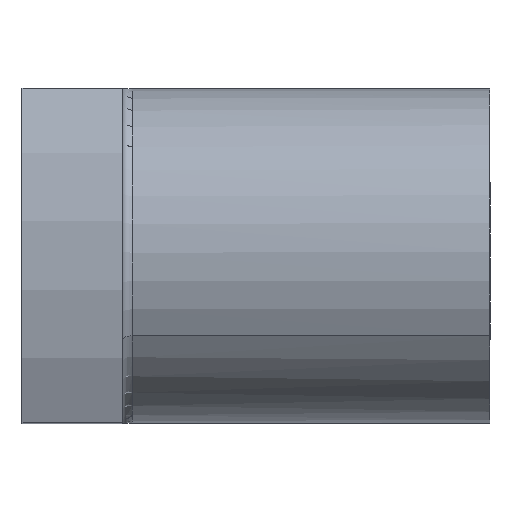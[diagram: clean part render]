
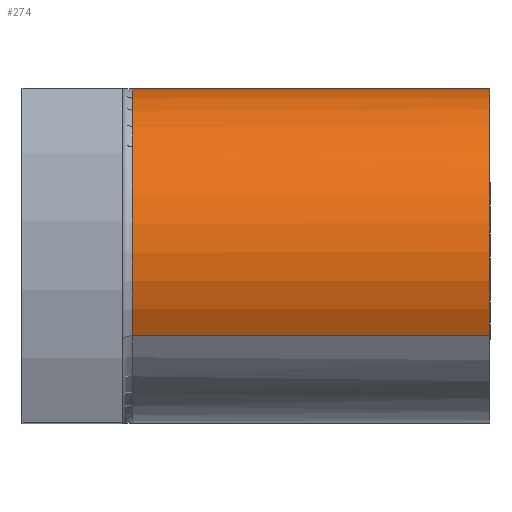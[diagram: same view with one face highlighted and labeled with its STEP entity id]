
A CAD part, top view. The second image highlights one B-rep face of the part: STEP entity #274.
In plain terms, the highlighted cylindrical face has radius 5 mm (diameter 10 mm), a partial arc.
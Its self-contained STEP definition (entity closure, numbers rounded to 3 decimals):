
#131=CARTESIAN_POINT('Axis2P3D Location',(14.,0.,0.)) ;
#135=CARTESIAN_POINT('Vertex',(14.,2.397,-4.388)) ;
#137=CARTESIAN_POINT('Vertex',(14.,-2.397,4.388)) ;
#234=CARTESIAN_POINT('Axis2P3D Location',(34.825,0.,0.)) ;
#239=CARTESIAN_POINT('Axis2P3D Location',(3.3,0.,0.)) ;
#243=CARTESIAN_POINT('Vertex',(3.3,-2.397,4.388)) ;
#245=CARTESIAN_POINT('Vertex',(3.3,5.,0.)) ;
#248=CARTESIAN_POINT('Line Origine',(34.825,-2.397,4.388)) ;
#253=CARTESIAN_POINT('Line Origine',(34.825,2.397,-4.388)) ;
#257=CARTESIAN_POINT('Vertex',(3.3,2.397,-4.388)) ;
#261=CARTESIAN_POINT('Control Point',(3.3,2.397,-4.388)) ;
#262=CARTESIAN_POINT('Control Point',(3.3,3.572,-3.746)) ;
#263=CARTESIAN_POINT('Control Point',(3.3,4.52,-2.681)) ;
#264=CARTESIAN_POINT('Control Point',(3.3,5.,-1.338)) ;
#265=CARTESIAN_POINT('Control Point',(3.3,5.,0.)) ;
#132=DIRECTION('Axis2P3D Direction',(1.,0.,0.)) ;
#235=DIRECTION('Axis2P3D Direction',(1.,0.,0.)) ;
#236=DIRECTION('Axis2P3D XDirection',(0.,0.479,-0.878)) ;
#240=DIRECTION('Axis2P3D Direction',(1.,0.,0.)) ;
#249=DIRECTION('Vector Direction',(1.,0.,0.)) ;
#254=DIRECTION('Vector Direction',(1.,0.,0.)) ;
#133=AXIS2_PLACEMENT_3D('Circle Axis2P3D',#131,#132,$) ;
#237=AXIS2_PLACEMENT_3D('Cylinder Axis2P3D',#234,#235,#236) ;
#241=AXIS2_PLACEMENT_3D('Circle Axis2P3D',#239,#240,$) ;
#268=ORIENTED_EDGE('',*,*,#247,.F.) ;
#269=ORIENTED_EDGE('',*,*,#252,.F.) ;
#270=ORIENTED_EDGE('',*,*,#139,.F.) ;
#271=ORIENTED_EDGE('',*,*,#259,.T.) ;
#272=ORIENTED_EDGE('',*,*,#266,.F.) ;
#250=VECTOR('Line Direction',#249,1.) ;
#255=VECTOR('Line Direction',#254,1.) ;
#274=ADVANCED_FACE('ASM5020',(#273),#238,.T.) ;
#260=B_SPLINE_CURVE_WITH_KNOTS('',4,(#261,#262,#263,#264,#265),.UNSPECIFIED.,.F.,.U.,(5,5),(-2.677,2.677),.UNSPECIFIED.) ;
#134=CIRCLE('generated circle',#133,5.) ;
#242=CIRCLE('generated circle',#241,5.) ;
#238=CYLINDRICAL_SURFACE('generated cylinder',#237,5.) ;
#139=EDGE_CURVE('',#136,#138,#134,.T.) ;
#247=EDGE_CURVE('',#244,#246,#242,.F.) ;
#252=EDGE_CURVE('',#138,#244,#251,.F.) ;
#259=EDGE_CURVE('',#136,#258,#256,.F.) ;
#266=EDGE_CURVE('',#246,#258,#260,.F.) ;
#267=EDGE_LOOP('',(#268,#269,#270,#271,#272)) ;
#273=FACE_OUTER_BOUND('',#267,.T.) ;
#251=LINE('Line',#248,#250) ;
#256=LINE('Line',#253,#255) ;
#136=VERTEX_POINT('',#135) ;
#138=VERTEX_POINT('',#137) ;
#244=VERTEX_POINT('',#243) ;
#246=VERTEX_POINT('',#245) ;
#258=VERTEX_POINT('',#257) ;
